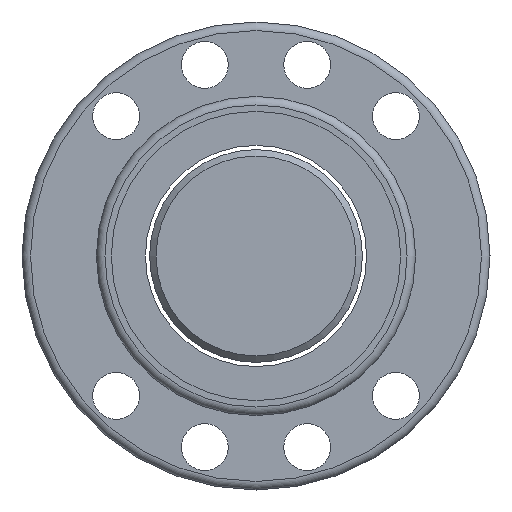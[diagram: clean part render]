
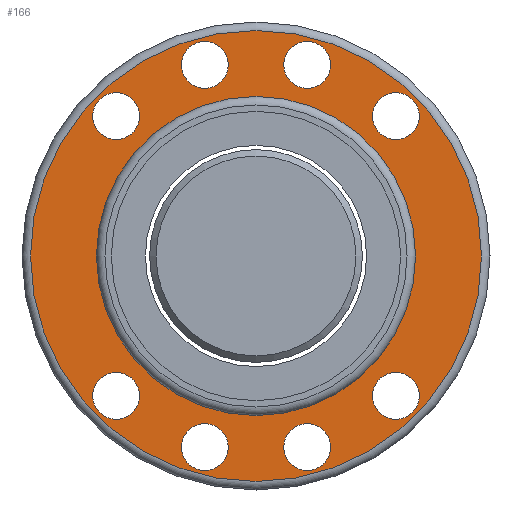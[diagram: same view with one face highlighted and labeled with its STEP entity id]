
A CAD part, left-side view. The second image highlights one B-rep face of the part: STEP entity #166.
In plain terms, the highlighted planar face has unit normal (-1, 0, 0).
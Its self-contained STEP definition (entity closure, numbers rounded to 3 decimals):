
#123=PLANE('',#722);
#140=FACE_OUTER_BOUND('',#348,.T.);
#166=ADVANCED_FACE('',(#241,#242,#243,#244,#245,#246,#247,#248,#249,#140),
#123,.T.);
#241=FACE_BOUND('',#339,.T.);
#242=FACE_BOUND('',#340,.T.);
#243=FACE_BOUND('',#341,.T.);
#244=FACE_BOUND('',#342,.T.);
#245=FACE_BOUND('',#343,.T.);
#246=FACE_BOUND('',#344,.T.);
#247=FACE_BOUND('',#345,.T.);
#248=FACE_BOUND('',#346,.T.);
#249=FACE_BOUND('',#347,.T.);
#339=EDGE_LOOP('',(#445));
#340=EDGE_LOOP('',(#446));
#341=EDGE_LOOP('',(#447));
#342=EDGE_LOOP('',(#448));
#343=EDGE_LOOP('',(#449));
#344=EDGE_LOOP('',(#450));
#345=EDGE_LOOP('',(#451));
#346=EDGE_LOOP('',(#452));
#347=EDGE_LOOP('',(#453));
#348=EDGE_LOOP('',(#454));
#445=ORIENTED_EDGE('',*,*,#588,.F.);
#446=ORIENTED_EDGE('',*,*,#589,.F.);
#447=ORIENTED_EDGE('',*,*,#590,.F.);
#448=ORIENTED_EDGE('',*,*,#591,.F.);
#449=ORIENTED_EDGE('',*,*,#592,.F.);
#450=ORIENTED_EDGE('',*,*,#593,.F.);
#451=ORIENTED_EDGE('',*,*,#594,.F.);
#452=ORIENTED_EDGE('',*,*,#595,.F.);
#453=ORIENTED_EDGE('',*,*,#596,.T.);
#454=ORIENTED_EDGE('',*,*,#586,.F.);
#533=VERTEX_POINT('',#1027);
#535=VERTEX_POINT('',#1032);
#536=VERTEX_POINT('',#1034);
#537=VERTEX_POINT('',#1036);
#538=VERTEX_POINT('',#1038);
#539=VERTEX_POINT('',#1040);
#540=VERTEX_POINT('',#1042);
#541=VERTEX_POINT('',#1044);
#542=VERTEX_POINT('',#1046);
#543=VERTEX_POINT('',#1048);
#586=EDGE_CURVE('',#533,#533,#639,.T.);
#588=EDGE_CURVE('',#535,#535,#641,.T.);
#589=EDGE_CURVE('',#536,#536,#642,.T.);
#590=EDGE_CURVE('',#537,#537,#643,.T.);
#591=EDGE_CURVE('',#538,#538,#644,.T.);
#592=EDGE_CURVE('',#539,#539,#645,.T.);
#593=EDGE_CURVE('',#540,#540,#646,.T.);
#594=EDGE_CURVE('',#541,#541,#647,.T.);
#595=EDGE_CURVE('',#542,#542,#648,.T.);
#596=EDGE_CURVE('',#543,#543,#649,.T.);
#639=CIRCLE('',#710,53.);
#641=CIRCLE('',#713,5.5);
#642=CIRCLE('',#714,5.5);
#643=CIRCLE('',#715,5.5);
#644=CIRCLE('',#716,5.5);
#645=CIRCLE('',#717,5.5);
#646=CIRCLE('',#718,5.5);
#647=CIRCLE('',#719,5.5);
#648=CIRCLE('',#720,5.5);
#649=CIRCLE('',#721,37.5);
#710=AXIS2_PLACEMENT_3D('',#1026,#844,#845);
#713=AXIS2_PLACEMENT_3D('',#1031,#850,#851);
#714=AXIS2_PLACEMENT_3D('',#1033,#852,#853);
#715=AXIS2_PLACEMENT_3D('',#1035,#854,#855);
#716=AXIS2_PLACEMENT_3D('',#1037,#856,#857);
#717=AXIS2_PLACEMENT_3D('',#1039,#858,#859);
#718=AXIS2_PLACEMENT_3D('',#1041,#860,#861);
#719=AXIS2_PLACEMENT_3D('',#1043,#862,#863);
#720=AXIS2_PLACEMENT_3D('',#1045,#864,#865);
#721=AXIS2_PLACEMENT_3D('',#1047,#866,#867);
#722=AXIS2_PLACEMENT_3D('',#1049,#868,#869);
#844=DIRECTION('',(1.,0.,0.));
#845=DIRECTION('',(0.,0.,-1.));
#850=DIRECTION('',(-1.,0.,0.));
#851=DIRECTION('',(0.,0.,1.));
#852=DIRECTION('',(-1.,0.,0.));
#853=DIRECTION('',(0.,0.,1.));
#854=DIRECTION('',(-1.,0.,0.));
#855=DIRECTION('',(0.,0.,1.));
#856=DIRECTION('',(-1.,0.,0.));
#857=DIRECTION('',(0.,0.,1.));
#858=DIRECTION('',(-1.,0.,0.));
#859=DIRECTION('',(0.,0.,1.));
#860=DIRECTION('',(-1.,0.,0.));
#861=DIRECTION('',(0.,0.,1.));
#862=DIRECTION('',(-1.,0.,0.));
#863=DIRECTION('',(0.,0.,1.));
#864=DIRECTION('',(-1.,0.,0.));
#865=DIRECTION('',(0.,0.,1.));
#866=DIRECTION('',(1.,0.,0.));
#867=DIRECTION('',(0.,0.,-1.));
#868=DIRECTION('',(-1.,0.,0.));
#869=DIRECTION('',(0.,0.,1.));
#1026=CARTESIAN_POINT('',(-36.,0.,0.));
#1027=CARTESIAN_POINT('',(-36.,0.,-53.));
#1031=CARTESIAN_POINT('',(-36.,32.88,-32.88));
#1032=CARTESIAN_POINT('',(-36.,32.88,-27.38));
#1033=CARTESIAN_POINT('',(-36.,12.035,-44.915));
#1034=CARTESIAN_POINT('',(-36.,12.035,-39.415));
#1035=CARTESIAN_POINT('',(-36.,-12.035,-44.915));
#1036=CARTESIAN_POINT('',(-36.,-12.035,-39.415));
#1037=CARTESIAN_POINT('',(-36.,-32.88,-32.88));
#1038=CARTESIAN_POINT('',(-36.,-32.88,-27.38));
#1039=CARTESIAN_POINT('',(-36.,-32.88,32.88));
#1040=CARTESIAN_POINT('',(-36.,-32.88,38.38));
#1041=CARTESIAN_POINT('',(-36.,-12.035,44.915));
#1042=CARTESIAN_POINT('',(-36.,-12.035,50.415));
#1043=CARTESIAN_POINT('',(-36.,12.035,44.915));
#1044=CARTESIAN_POINT('',(-36.,12.035,50.415));
#1045=CARTESIAN_POINT('',(-36.,32.88,32.88));
#1046=CARTESIAN_POINT('',(-36.,32.88,38.38));
#1047=CARTESIAN_POINT('',(-36.,0.,0.));
#1048=CARTESIAN_POINT('',(-36.,0.,-37.5));
#1049=CARTESIAN_POINT('',(-36.,45.25,0.));
